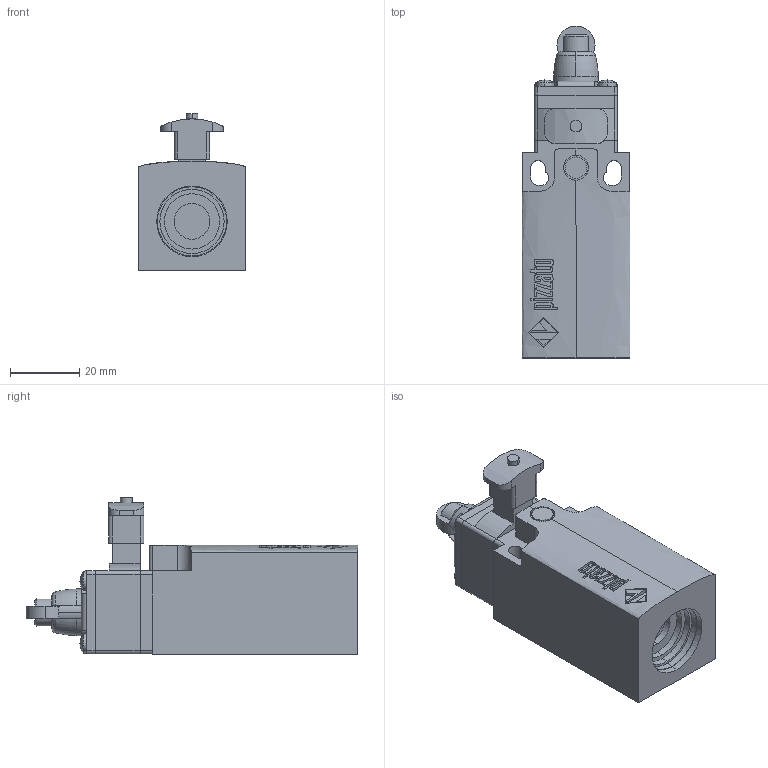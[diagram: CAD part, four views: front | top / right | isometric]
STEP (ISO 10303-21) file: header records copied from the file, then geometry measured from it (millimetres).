
FILE_DESCRIPTION (( 'STEP AP203' ), '1' );
FILE_NAME ('ZF_STEP_FR_x15-W3.STEP', '2024-02-26T08:53:33', ( '' ), ( '' ), 'SwSTEP 2.0', 'SolidWorks 2023', '' );
FILE_SCHEMA (( 'CONFIG_CONTROL_DESIGN' ));
Length unit declared in the file: millimetre
Products named in the file (8): Pizzato_Custodia_FR_3dweb; Pizzato_Modulo_Reset-W3_3dweb; Pizzato_Supporto_TE15; Pizzato_Pistoncino_TE15; ZF_STEP_VF_TE15; ZF_STEP_FR_x15-W3
Assembly tree (7 placements, depth 3):
  ZF_STEP_FR_x15-W3
    Pizzato_Custodia_FR_3dweb
      Pizzato_Custodia_FR_3dweb
    ZF_STEP_VF_TE15
      Pizzato_Supporto_TE15
      Pizzato_Pistoncino_TE15
    Pizzato_Modulo_Reset-W3_3dweb
      Pizzato_Modulo_Reset-W3_3dweb
Bounding box: 31.2 x 96 x 45.4 mm (x, y, z)
Volume: 67395 mm3; surface area: 19021.3 mm2
Topology: 4 solids, 4 shells, 479 faces, 1254 edges, 830 vertices
Faces by surface type: plane 273, bspline 114, cylinder 72, sphere 8, torus 7, cone 5
Entity records: 19603 total; most frequent: CARTESIAN_POINT 7786, ORIENTED_EDGE 2508, DIRECTION 1855, EDGE_CURVE 1254, VERTEX_POINT 830, VECTOR 773, LINE 773, AXIS2_PLACEMENT_3D 541
